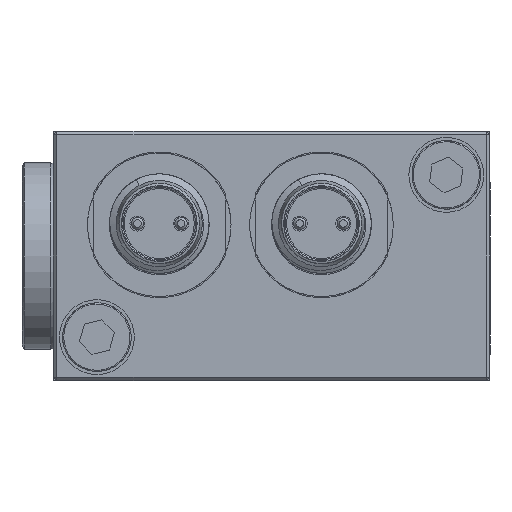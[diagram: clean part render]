
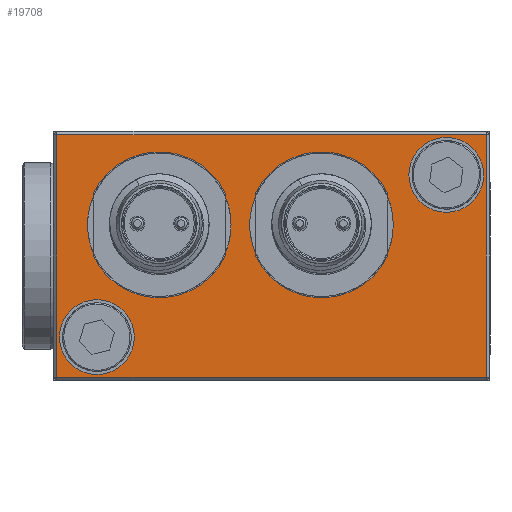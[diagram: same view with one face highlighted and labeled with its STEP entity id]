
A CAD part, left-side view. The second image highlights one B-rep face of the part: STEP entity #19708.
In plain terms, the highlighted planar face has unit normal (-1, 0, 0).
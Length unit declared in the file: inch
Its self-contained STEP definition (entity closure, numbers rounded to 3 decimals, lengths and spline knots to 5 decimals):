
#396 = EDGE_LOOP ( 'NONE', ( #11926 ) ) ;
#507 = ORIENTED_EDGE ( 'NONE', *, *, #1909, .F. ) ;
#1458 = VERTEX_POINT ( 'NONE', #37292 ) ;
#1909 = EDGE_CURVE ( 'NONE', #29510, #29510, #27257, .T. ) ;
#3591 = CARTESIAN_POINT ( 'NONE',  ( -2.34252, -0.55118, 0.25591 ) ) ;
#6050 = DIRECTION ( 'NONE',  ( 0., 0., 1. ) ) ;
#6072 = EDGE_CURVE ( 'NONE', #10824, #1458, #15736, .T. ) ;
#6369 = CARTESIAN_POINT ( 'NONE',  ( -2.34252, 0.55118, -0.1378 ) ) ;
#7312 = DIRECTION ( 'NONE',  ( 0., -1., 0. ) ) ;
#7682 = VERTEX_POINT ( 'NONE', #23681 ) ;
#8006 = ORIENTED_EDGE ( 'NONE', *, *, #6072, .T. ) ;
#8132 = LINE ( 'NONE', #20556, #21852 ) ;
#9029 = PLANE ( 'NONE',  #31469 ) ;
#10218 = VERTEX_POINT ( 'NONE', #39993 ) ;
#10496 = EDGE_CURVE ( 'NONE', #10218, #10218, #40126, .T. ) ;
#10704 = AXIS2_PLACEMENT_3D ( 'NONE', #32551, #33413, #13693 ) ;
#10824 = VERTEX_POINT ( 'NONE', #40355 ) ;
#10915 = DIRECTION ( 'NONE',  ( 0., 0., -1. ) ) ;
#11627 = VERTEX_POINT ( 'NONE', #37959 ) ;
#11926 = ORIENTED_EDGE ( 'NONE', *, *, #14128, .F. ) ;
#13149 = AXIS2_PLACEMENT_3D ( 'NONE', #34087, #33670, #7312 ) ;
#13395 = CARTESIAN_POINT ( 'NONE',  ( -2.34252, 0.55118, -0.25591 ) ) ;
#13693 = DIRECTION ( 'NONE',  ( 0., -1., 0. ) ) ;
#14128 = EDGE_CURVE ( 'NONE', #14478, #14478, #19319, .T. ) ;
#14271 = AXIS2_PLACEMENT_3D ( 'NONE', #13395, #20037, #33123 ) ;
#14478 = VERTEX_POINT ( 'NONE', #40835 ) ;
#14742 = EDGE_LOOP ( 'NONE', ( #507 ) ) ;
#14794 = FACE_BOUND ( 'NONE', #14742, .T. ) ;
#14898 = VERTEX_POINT ( 'NONE', #32423 ) ;
#15232 = CARTESIAN_POINT ( 'NONE',  ( -2.34252, -0.68898, 0.3937 ) ) ;
#15303 = CARTESIAN_POINT ( 'NONE',  ( -2.34252, -0.68898, 0.38189 ) ) ;
#15736 = LINE ( 'NONE', #15303, #20380 ) ;
#16478 = ORIENTED_EDGE ( 'NONE', *, *, #41610, .F. ) ;
#16810 = EDGE_CURVE ( 'NONE', #14898, #7682, #40831, .T. ) ;
#18031 = FACE_BOUND ( 'NONE', #396, .T. ) ;
#18235 = FACE_OUTER_BOUND ( 'NONE', #19343, .T. ) ;
#18878 = EDGE_CURVE ( 'NONE', #11627, #11627, #33580, .T. ) ;
#19130 = EDGE_LOOP ( 'NONE', ( #40392 ) ) ;
#19319 = CIRCLE ( 'NONE', #13149, 0.20276 ) ;
#19343 = EDGE_LOOP ( 'NONE', ( #16478, #39702, #26137, #8006 ) ) ;
#19708 = ADVANCED_FACE ( 'NONE', ( #31535, #18031, #25307, #14794, #18235 ), #9029, .F. ) ;
#20037 = DIRECTION ( 'NONE',  ( -1., 0., 0. ) ) ;
#20380 = VECTOR ( 'NONE', #38655, 39.37008 ) ;
#20556 = CARTESIAN_POINT ( 'NONE',  ( -2.34252, -0.67717, 0.3937 ) ) ;
#21852 = VECTOR ( 'NONE', #10915, 39.37008 ) ;
#23681 = CARTESIAN_POINT ( 'NONE',  ( -2.34252, 0.67717, -0.38189 ) ) ;
#24669 = AXIS2_PLACEMENT_3D ( 'NONE', #3591, #32721, #33151 ) ;
#25149 = ORIENTED_EDGE ( 'NONE', *, *, #18878, .F. ) ;
#25307 = FACE_BOUND ( 'NONE', #39576, .T. ) ;
#26137 = ORIENTED_EDGE ( 'NONE', *, *, #26725, .F. ) ;
#26725 = EDGE_CURVE ( 'NONE', #10824, #14898, #8132, .T. ) ;
#27257 = CIRCLE ( 'NONE', #14271, 0.11811 ) ;
#29510 = VERTEX_POINT ( 'NONE', #6369 ) ;
#31469 = AXIS2_PLACEMENT_3D ( 'NONE', #15232, #34318, #31942 ) ;
#31535 = FACE_BOUND ( 'NONE', #19130, .T. ) ;
#31942 = DIRECTION ( 'NONE',  ( 0., 1., 0. ) ) ;
#32423 = CARTESIAN_POINT ( 'NONE',  ( -2.34252, -0.67717, -0.38189 ) ) ;
#32551 = CARTESIAN_POINT ( 'NONE',  ( -2.34252, 0.35433, 0.09843 ) ) ;
#32721 = DIRECTION ( 'NONE',  ( -1., 0., 0. ) ) ;
#33123 = DIRECTION ( 'NONE',  ( 0., 0., 1. ) ) ;
#33151 = DIRECTION ( 'NONE',  ( 0., 0., 1. ) ) ;
#33413 = DIRECTION ( 'NONE',  ( -1., 0., 0. ) ) ;
#33580 = CIRCLE ( 'NONE', #24669, 0.11811 ) ;
#33670 = DIRECTION ( 'NONE',  ( -1., 0., 0. ) ) ;
#33980 = DIRECTION ( 'NONE',  ( 0., 1., 0. ) ) ;
#34087 = CARTESIAN_POINT ( 'NONE',  ( -2.34252, -0.15748, 0.09843 ) ) ;
#34318 = DIRECTION ( 'NONE',  ( 1., 0., 0. ) ) ;
#37217 = VECTOR ( 'NONE', #33980, 39.37008 ) ;
#37292 = CARTESIAN_POINT ( 'NONE',  ( -2.34252, 0.67717, 0.38189 ) ) ;
#37629 = CARTESIAN_POINT ( 'NONE',  ( -2.34252, -0.68898, -0.38189 ) ) ;
#37781 = LINE ( 'NONE', #40993, #38799 ) ;
#37959 = CARTESIAN_POINT ( 'NONE',  ( -2.34252, -0.55118, 0.37402 ) ) ;
#38655 = DIRECTION ( 'NONE',  ( 0., 1., 0. ) ) ;
#38799 = VECTOR ( 'NONE', #6050, 39.37008 ) ;
#39576 = EDGE_LOOP ( 'NONE', ( #25149 ) ) ;
#39702 = ORIENTED_EDGE ( 'NONE', *, *, #16810, .F. ) ;
#39993 = CARTESIAN_POINT ( 'NONE',  ( -2.34252, 0.15157, 0.09843 ) ) ;
#40126 = CIRCLE ( 'NONE', #10704, 0.20276 ) ;
#40355 = CARTESIAN_POINT ( 'NONE',  ( -2.34252, -0.67717, 0.38189 ) ) ;
#40392 = ORIENTED_EDGE ( 'NONE', *, *, #10496, .F. ) ;
#40831 = LINE ( 'NONE', #37629, #37217 ) ;
#40835 = CARTESIAN_POINT ( 'NONE',  ( -2.34252, -0.36024, 0.09843 ) ) ;
#40993 = CARTESIAN_POINT ( 'NONE',  ( -2.34252, 0.67717, 0.3937 ) ) ;
#41610 = EDGE_CURVE ( 'NONE', #7682, #1458, #37781, .T. ) ;
